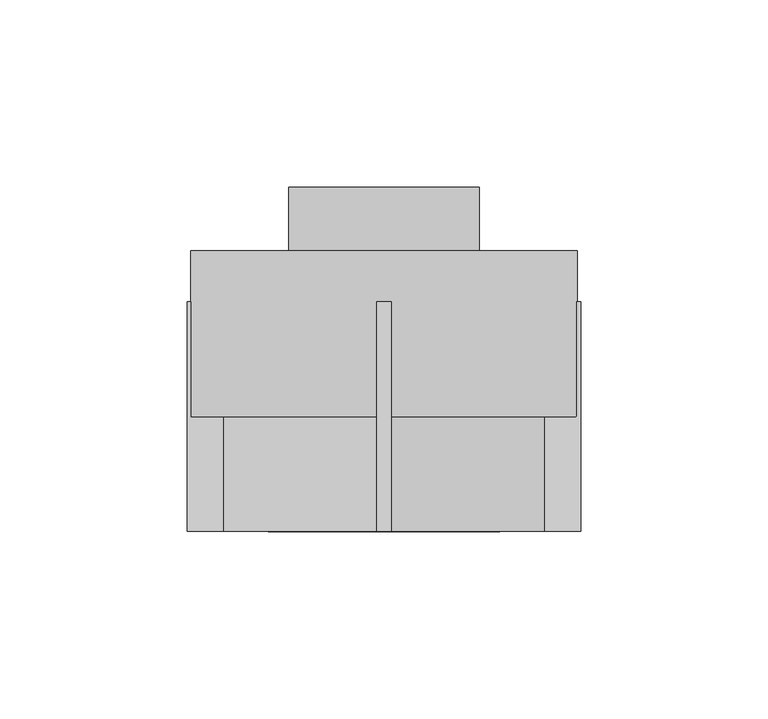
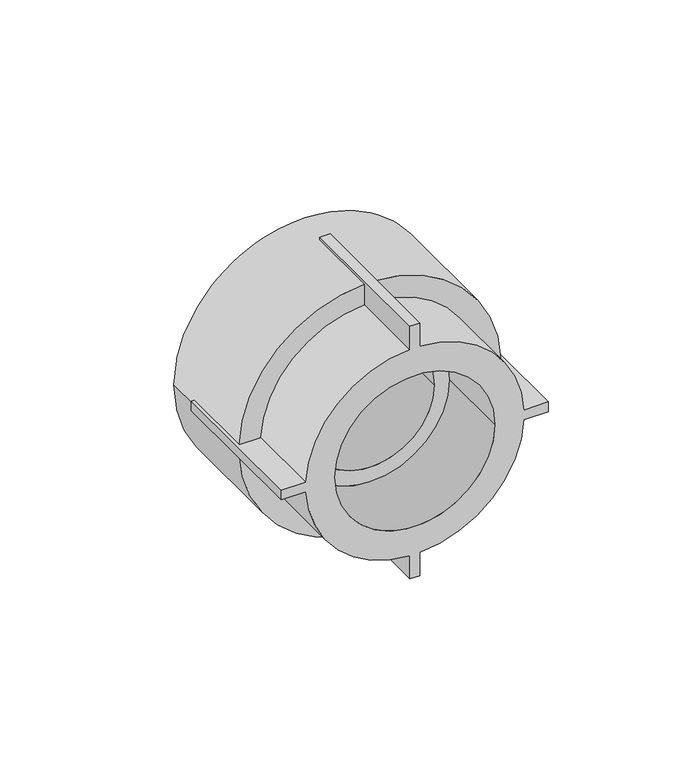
"""IFC4 building model written with IfcOpenShell, lengths in millimetres: pipe fitting geometry, EGB_VASEN_ PPR_Entronque rosca hembra WXR102 : Entronque rosca hembra WXR102."""

from ifc_helpers import new_model, si_unit, point, frame, origin, origin_2d, place, context, project, spatial, polyline, circle_curve, trimmed, segment, composite_curve, outline, extrude, source, transform, mapped, element, save
from ifc_brep_helpers import plane_surface, cylinder_surface, revolved_surface, advanced_brep


def pipe_fitting_6062d6ca(model_context):
    return source(origin(), model_context, "Body", "SolidModel", [
        advanced_brep(
        [(2.0, -30.6666667, 52.6), (-2.0, -30.6666667, 52.6), (-2.0, -30.6666667, 42.9534632), (-42.9534632, -30.6666667, 2.0), (-52.6, -30.6666667, 2.0), (-52.6, -30.6666667, -2.0), (-42.9534632, -30.6666667, -2.0), (-2.0, -30.6666667, -42.9534632), (-2.0, -30.6666667, -52.6), (2.0, -30.6666667, -52.6), (2.0, -30.6666667, -42.9534632), (42.9534632, -30.6666667, -2.0), (52.6, -30.6666667, -2.0), (52.6, -30.6666667, 2.0), (42.9534632, -30.6666667, 2.0), (2.0, -30.6666667, 42.9534632), (-31.5, -30.6666667, 0.0), (31.5, -30.6666667, 0.0), (-2.0, 30.6666667, 52.6), (2.0, 30.6666667, 52.6), (2.0, 30.6666667, 51.5612257), (-2.0, 30.6666667, 51.5612257), (2.0, 30.6666667, -52.6), (-2.0, 30.6666667, -52.6), (-2.0, 30.6666667, -51.5612257), (2.0, 30.6666667, -51.5612257), (52.6, 30.6666667, 2.0), (52.6, 30.6666667, -2.0), (51.5612257, 30.6666667, -2.0), (51.6, 30.6666667, 0.0), (51.5612257, 30.6666667, 2.0), (-52.6, 30.6666667, -2.0), (-52.6, 30.6666667, 2.0), (-51.5612257, 30.6666667, 2.0), (-51.6, 30.6666667, 0.0), (-51.5612257, 30.6666667, -2.0), (2.0, 0.0, 42.9534632), (2.0, 0.0, 51.5612257), (-2.0, 0.0, 51.5612257), (-2.0, 0.0, 42.9534632), (2.0, 0.0, -51.5612257), (2.0, 0.0, -42.9534632), (-2.0, 0.0, -42.9534632), (-2.0, 0.0, -51.5612257), (42.9534632, 0.0, -2.0), (51.5612257, 0.0, -2.0), (51.5612257, 0.0, 2.0), (42.9534632, 0.0, 2.0), (-51.5612257, 0.0, -2.0), (-42.9534632, 0.0, -2.0), (-42.9534632, 0.0, 2.0), (-51.5612257, 0.0, 2.0), (-31.5, 0.0, 0.0), (31.5, 0.0, 0.0), (-25.4, 0.0, 0.0), (25.4, 0.0, 0.0), (-51.6, 44.3333333, 0.0), (51.6, 44.3333333, 0.0), (-25.4, 44.3333333, 0.0), (25.4, 44.3333333, 0.0)],
        [
            (0, 1),
            (1, 2),
            (2, 3, circle_curve(frame((0.0, -30.6666667, 0.0), z_axis=(0.0, -1.0, 0.0), x_axis=(1.0, 0.0, 0.0)), 43.0)),
            (3, 4),
            (4, 5),
            (5, 6),
            (6, 7, circle_curve(frame((0.0, -30.6666667, 0.0), z_axis=(0.0, -1.0, 0.0), x_axis=(1.0, 0.0, 0.0)), 43.0)),
            (7, 8),
            (8, 9),
            (9, 10),
            (10, 11, circle_curve(frame((0.0, -30.6666667, 0.0), z_axis=(0.0, -1.0, 0.0), x_axis=(1.0, 0.0, 0.0)), 43.0)),
            (11, 12),
            (12, 13),
            (13, 14),
            (14, 15, circle_curve(frame((0.0, -30.6666667, 0.0), z_axis=(0.0, -1.0, 0.0), x_axis=(1.0, 0.0, 0.0)), 43.0)),
            (15, 0),
            (16, 17, circle_curve(frame((0.0, -30.6666667, 0.0), z_axis=(0.0, 1.0, 0.0), x_axis=(1.0, 0.0, 0.0)), 31.5)),
            (17, 16, circle_curve(frame((0.0, -30.6666667, 0.0), z_axis=(0.0, 1.0, 0.0), x_axis=(1.0, 0.0, 0.0)), 31.5)),
            (18, 19),
            (19, 20),
            (20, 21, circle_curve(frame((0.0, 30.6666667, 0.0), z_axis=(0.0, -1.0, 0.0), x_axis=(1.0, 0.0, 0.0)), 51.6)),
            (21, 18),
            (22, 23),
            (23, 24),
            (24, 25, circle_curve(frame((0.0, 30.6666667, 0.0), z_axis=(0.0, -1.0, 0.0), x_axis=(1.0, 0.0, 0.0)), 51.6)),
            (25, 22),
            (26, 27),
            (27, 28),
            (28, 29, circle_curve(frame((0.0, 30.6666667, 0.0), z_axis=(0.0, -1.0, 0.0), x_axis=(1.0, 0.0, 0.0)), 51.6)),
            (29, 30, circle_curve(frame((0.0, 30.6666667, 0.0), z_axis=(0.0, -1.0, 0.0), x_axis=(1.0, 0.0, 0.0)), 51.6)),
            (30, 26),
            (31, 32),
            (32, 33),
            (33, 34, circle_curve(frame((0.0, 30.6666667, 0.0), z_axis=(0.0, -1.0, 0.0), x_axis=(1.0, 0.0, 0.0)), 51.6)),
            (34, 35, circle_curve(frame((0.0, 30.6666667, 0.0), z_axis=(0.0, -1.0, 0.0), x_axis=(1.0, 0.0, 0.0)), 51.6)),
            (35, 31),
            (19, 0),
            (15, 36),
            (36, 37),
            (37, 20),
            (18, 1),
            (21, 38),
            (38, 39),
            (39, 2),
            (8, 23),
            (22, 9),
            (25, 40),
            (40, 41),
            (41, 10),
            (7, 42),
            (42, 43),
            (43, 24),
            (27, 12),
            (11, 44),
            (44, 45),
            (45, 28),
            (26, 13),
            (30, 46),
            (46, 47),
            (47, 14),
            (5, 31),
            (35, 48),
            (48, 49),
            (49, 6),
            (32, 4),
            (3, 50),
            (50, 51),
            (51, 33),
            (49, 42, circle_curve(frame((0.0, 0.0, 0.0), z_axis=(0.0, -1.0, 0.0), x_axis=(1.0, 0.0, 0.0)), 43.0)),
            (41, 44, circle_curve(frame((0.0, 0.0, 0.0), z_axis=(0.0, -1.0, 0.0), x_axis=(1.0, 0.0, 0.0)), 43.0)),
            (39, 50, circle_curve(frame((0.0, 0.0, 0.0), z_axis=(0.0, -1.0, 0.0), x_axis=(1.0, 0.0, 0.0)), 43.0)),
            (47, 36, circle_curve(frame((0.0, 0.0, 0.0), z_axis=(0.0, -1.0, 0.0), x_axis=(1.0, 0.0, 0.0)), 43.0)),
            (16, 52),
            (52, 53, circle_curve(frame((0.0, 0.0, 0.0), z_axis=(0.0, 1.0, 0.0), x_axis=(1.0, 0.0, 0.0)), 31.5)),
            (53, 17),
            (53, 52, circle_curve(frame((0.0, 0.0, 0.0), z_axis=(0.0, 1.0, 0.0), x_axis=(1.0, 0.0, 0.0)), 31.5)),
            (54, 55, circle_curve(frame((0.0, 0.0, 0.0), z_axis=(0.0, 1.0, 0.0), x_axis=(1.0, 0.0, 0.0)), 25.4)),
            (55, 54, circle_curve(frame((0.0, 0.0, 0.0), z_axis=(0.0, 1.0, 0.0), x_axis=(1.0, 0.0, 0.0)), 25.4)),
            (40, 45, circle_curve(frame((0.0, 0.0, 0.0), z_axis=(0.0, -1.0, 0.0), x_axis=(1.0, 0.0, 0.0)), 51.6)),
            (48, 43, circle_curve(frame((0.0, 0.0, 0.0), z_axis=(0.0, -1.0, 0.0), x_axis=(1.0, 0.0, 0.0)), 51.6)),
            (46, 37, circle_curve(frame((0.0, 0.0, 0.0), z_axis=(0.0, -1.0, 0.0), x_axis=(1.0, 0.0, 0.0)), 51.6)),
            (38, 51, circle_curve(frame((0.0, 0.0, 0.0), z_axis=(0.0, -1.0, 0.0), x_axis=(1.0, 0.0, 0.0)), 51.6)),
            (56, 57, circle_curve(frame((0.0, 44.3333333, 0.0), z_axis=(0.0, 1.0, 0.0), x_axis=(1.0, 0.0, 0.0)), 51.6)),
            (57, 56, circle_curve(frame((0.0, 44.3333333, 0.0), z_axis=(0.0, 1.0, 0.0), x_axis=(1.0, 0.0, 0.0)), 51.6)),
            (58, 59, circle_curve(frame((0.0, 44.3333333, 0.0), z_axis=(0.0, -1.0, 0.0), x_axis=(1.0, 0.0, 0.0)), 25.4)),
            (59, 58, circle_curve(frame((0.0, 44.3333333, 0.0), z_axis=(0.0, -1.0, 0.0), x_axis=(1.0, 0.0, 0.0)), 25.4)),
            (57, 29),
            (34, 56),
            (54, 58),
            (59, 55),
        ],
        [
            plane_surface(frame((0.0, -30.6666667, 0.0), z_axis=(0.0, -1.0, 0.0), x_axis=(0.0, 0.0, 1.0))),
            plane_surface(frame((0.0, 30.6666667, 0.0), z_axis=(0.0, 1.0, 0.0), x_axis=(0.0, 0.0, 1.0))),
            plane_surface(frame((2.0, -30.6666667, 42.0), z_axis=(1.0, 0.0, 0.0), x_axis=(0.0, 1.0, 0.0))),
            plane_surface(frame((2.0, -30.6666667, 52.6), z_axis=(0.0, 0.0, 1.0), x_axis=(0.0, 1.0, 0.0))),
            plane_surface(frame((-2.0, -30.6666667, 52.6), z_axis=(-1.0, 0.0, 0.0), x_axis=(0.0, 1.0, 0.0))),
            plane_surface(frame((-2.0, -30.6666667, -52.6), z_axis=(0.0, 0.0, -1.0), x_axis=(0.0, 1.0, 0.0))),
            plane_surface(frame((2.0, -30.6666667, -52.6), z_axis=(1.0, 0.0, 0.0), x_axis=(0.0, 1.0, 0.0))),
            plane_surface(frame((-2.0, -30.6666667, -42.0), z_axis=(-1.0, 0.0, 0.0), x_axis=(0.0, 1.0, 0.0))),
            plane_surface(frame((42.0, -30.6666667, -2.0), z_axis=(0.0, 0.0, -1.0), x_axis=(0.0, 1.0, 0.0))),
            plane_surface(frame((52.6, -30.6666667, -2.0), z_axis=(1.0, 0.0, 0.0), x_axis=(0.0, 1.0, 0.0))),
            plane_surface(frame((52.6, -30.6666667, 2.0), z_axis=(0.0, 0.0, 1.0), x_axis=(0.0, 1.0, 0.0))),
            plane_surface(frame((-52.6, -30.6666667, -2.0), z_axis=(0.0, 0.0, -1.0), x_axis=(0.0, 1.0, 0.0))),
            plane_surface(frame((-42.0, -30.6666667, 2.0), z_axis=(0.0, 0.0, 1.0), x_axis=(0.0, 1.0, 0.0))),
            plane_surface(frame((-52.6, -30.6666667, 2.0), z_axis=(-1.0, 0.0, 0.0), x_axis=(0.0, 1.0, 0.0))),
            cylinder_surface(frame((0.0, 0.0, 0.0), z_axis=(0.0, -1.0, 0.0), x_axis=(1.0, 0.0, 0.0)), 43.0),
            revolved_surface(polyline([(31.5, 0.0, 0.0), (31.5, -30.6666667, 0.0)]), (0.0, 0.0, 0.0), (0.0, 1.0, 0.0)),
            plane_surface(frame((51.6, 0.0, 0.0), z_axis=(0.0, -1.0, 0.0), x_axis=(0.0, 0.0, 1.0))),
            plane_surface(frame((51.6, 44.3333333, 0.0), z_axis=(0.0, 1.0, 0.0), x_axis=(0.0, 0.0, -1.0))),
            cylinder_surface(frame((0.0, 44.3333333, 0.0), z_axis=(0.0, -1.0, 0.0), x_axis=(1.0, 0.0, 0.0)), 51.6),
            revolved_surface(polyline([(25.4, 44.3333333, 0.0), (25.4, 0.0, 0.0)]), (0.0, 0.0, 0.0), (0.0, 1.0, 0.0)),
        ],
        [
            (0, [[1, 2, 3, 4, 5, 6, 7, 8, 9, 10, 11, 12, 13, 14, 15, 16], [17, 18]]),
            (1, [[19, 20, 21, 22]]),
            (1, [[23, 24, 25, 26]]),
            (1, [[27, 28, 29, 30, 31]]),
            (1, [[32, 33, 34, 35, 36]]),
            (2, [[37, -16, 38, 39, 40, -20]]),
            (3, [[-1, -37, -19, 41]]),
            (4, [[-41, -22, 42, 43, 44, -2]]),
            (5, [[-9, 45, -23, 46]]),
            (6, [[-46, -26, 47, 48, 49, -10]]),
            (7, [[-45, -8, 50, 51, 52, -24]]),
            (8, [[53, -12, 54, 55, 56, -28]]),
            (9, [[-13, -53, -27, 57]]),
            (10, [[-57, -31, 58, 59, 60, -14]]),
            (11, [[61, -36, 62, 63, 64, -6]]),
            (12, [[65, -4, 66, 67, 68, -33]]),
            (13, [[-5, -65, -32, -61]]),
            (14, [[-7, -64, 69, -50]]),
            (14, [[-11, -49, 70, -54]]),
            (14, [[-3, -44, 71, -66]]),
            (14, [[-15, -60, 72, -38]]),
            (15, [[-17, 73, 74, 75]]),
            (15, [[-18, -75, 76, -73]]),
            (16, [[-74, -76], [77, 78]]),
            (16, [[79, -55, -70, -48]]),
            (16, [[80, -51, -69, -63]]),
            (16, [[81, -39, -72, -59]]),
            (16, [[82, -67, -71, -43]]),
            (17, [[83, 84], [85, 86]]),
            (18, [[-84, 87, -29, -56, -79, -47, -25, -52, -80, -62, -35, 88]]),
            (18, [[-83, -88, -34, -68, -82, -42, -21, -40, -81, -58, -30, -87]]),
            (19, [[-77, 89, -86, 90]]),
            (19, [[-78, -90, -85, -89]]),
        ],
    ),
        extrude(outline(composite_curve([segment(trimmed(circle_curve(origin_2d(), 25.4), [point((0.0, -25.4))], [point((0.0, 25.4))], False, "CARTESIAN"), True, "CONTINUOUS"), segment(trimmed(circle_curve(origin_2d(), 25.4), [point((0.0, 25.4))], [point((0.0, -25.4))], False, "CARTESIAN"), True, "CONTINUOUS")], self_intersect=False)), frame((0.0, 30.6666667, 0.0), z_axis=(0.0, 1.0, 0.0), x_axis=(0.0, 0.0, 1.0)), (0.0, 0.0, 1.0), 30.6666667),
    ])


if __name__ == "__main__":
    model = new_model("IFC4")
    model_context = context("Model", 3, world=origin())
    ifc_project = project(units=[si_unit("LENGTHUNIT", "METRE", prefix="MILLI")], contexts=[model_context])
    site = spatial("IfcSite", under=ifc_project)
    building = spatial("IfcBuilding", under=site)
    placement = place(None, origin())
    pipe_fitting_shape = pipe_fitting_6062d6ca(model_context)
    element("IfcPipeFitting", 1, ObjectType="EGB_VASEN_ PPR_Entronque rosca hembra WXR102 : Entronque rosca hembra WXR102", at=placement, inside=building, context=model_context, shape_type="MappedRepresentation", body=[
        mapped(pipe_fitting_shape, transform((0.0, 0.0, 0.0), x_axis=(1.0, 0.0, 0.0), y_axis=(0.0, 1.0, 0.0), z_axis=(0.0, 0.0, 1.0))),
    ])
    save(model, "model.ifc")
